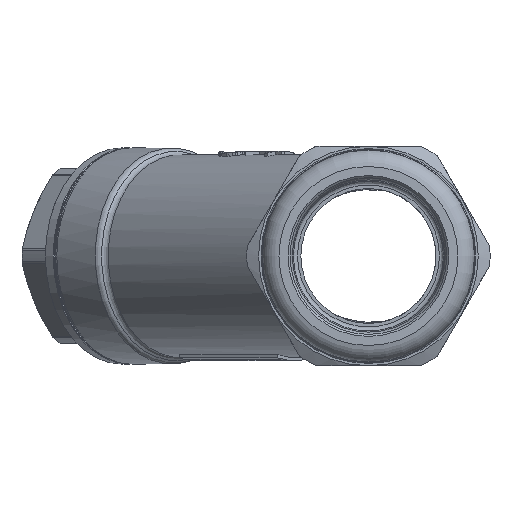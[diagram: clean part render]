
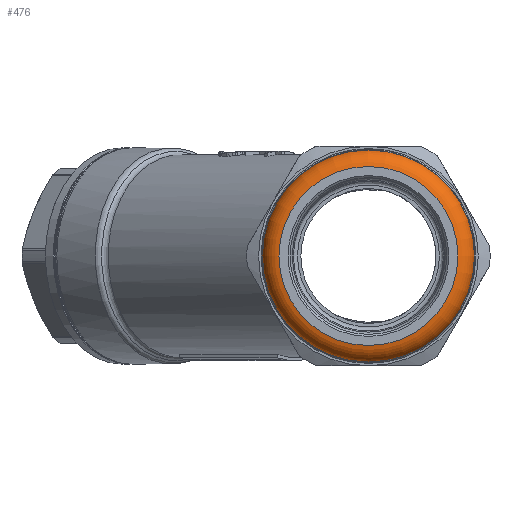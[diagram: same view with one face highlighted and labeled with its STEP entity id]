
A CAD part, left-side view. The second image highlights one B-rep face of the part: STEP entity #476.
In plain terms, the highlighted toroidal (fillet/blend) face has major radius 12.855 mm and minor radius 2.895 mm.
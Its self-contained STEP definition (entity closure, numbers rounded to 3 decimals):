
#442=CARTESIAN_POINT('',(-58.189,15.696,0.0));
#443=VERTEX_POINT('',#442);
#444=CARTESIAN_POINT('',(-58.189,0.0,0.0));
#445=DIRECTION('',(-1.0,0.0,0.0));
#446=DIRECTION('',(0.0,1.0,0.0));
#447=AXIS2_PLACEMENT_3D('',#444,#445,#446);
#448=CIRCLE('',#447,15.696);
#449=EDGE_CURVE('',#443,#443,#448,.T.);
#457=CARTESIAN_POINT('',(-57.632,0.0,0.0));
#458=DIRECTION('',(-1.0,0.0,0.0));
#459=DIRECTION('',(0.0,0.0,1.0));
#460=AXIS2_PLACEMENT_3D('',#457,#458,#459);
#461=TOROIDAL_SURFACE('',#460,12.855,2.895);
#462=CARTESIAN_POINT('',(-60.5,13.25,0.0));
#463=VERTEX_POINT('',#462);
#464=CARTESIAN_POINT('',(-60.5,0.0,0.0));
#465=DIRECTION('',(-1.0,0.0,0.0));
#466=DIRECTION('',(0.0,1.0,0.0));
#467=AXIS2_PLACEMENT_3D('',#464,#465,#466);
#468=CIRCLE('',#467,13.25);
#469=EDGE_CURVE('',#463,#463,#468,.T.);
#470=ORIENTED_EDGE('',*,*,#469,.F.);
#471=EDGE_LOOP('',(#470));
#472=FACE_OUTER_BOUND('',#471,.T.);
#473=ORIENTED_EDGE('',*,*,#449,.T.);
#474=EDGE_LOOP('',(#473));
#475=FACE_BOUND('',#474,.T.);
#476=ADVANCED_FACE('',(#472,#475),#461,.T.);
